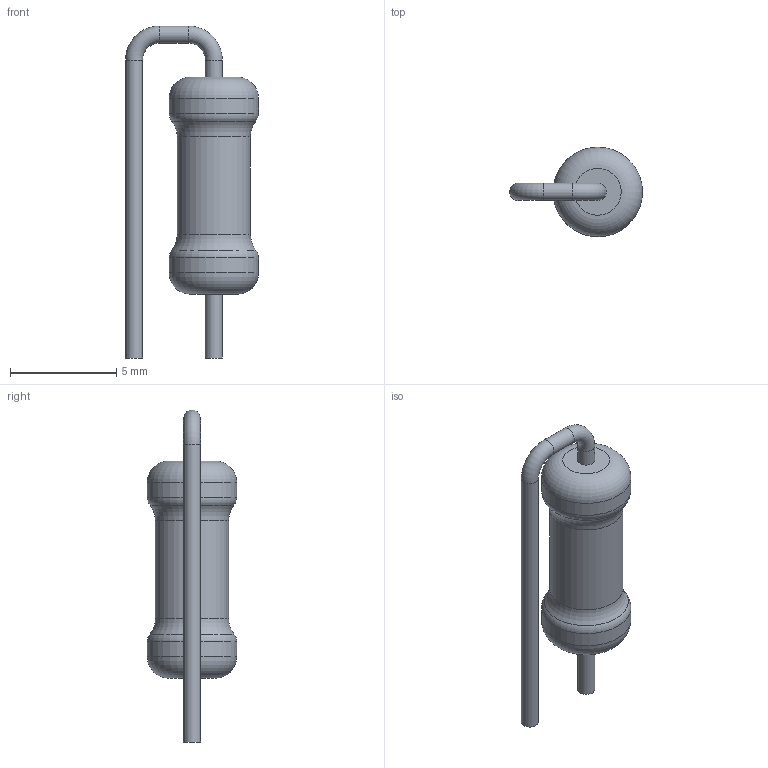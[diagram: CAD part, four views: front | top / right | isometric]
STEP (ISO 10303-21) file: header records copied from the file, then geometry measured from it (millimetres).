
FILE_DESCRIPTION(('STEP AP203'), '1');
FILE_NAME('栖闉罻', '', ('UNSPECIFIED'), ('UNSPECIFIED'), 'ASCON STEP Converter 1.6', 'ASCON Math Kernel', '');
FILE_SCHEMA(('CONFIG_CONTROL_DESIGN'));
Length unit declared in the file: millimetre
Assembly tree (1 placements, depth 2):
  (unnamed)
    (unnamed)
Bounding box: 6.25 x 4.2 x 15.6 mm (x, y, z)
Volume: 121.1 mm3; surface area: 195.8 mm2
Topology: 1 solids, 1 shells, 19 faces, 33 edges, 18 vertices
Faces by surface type: torus 8, cylinder 7, plane 4
Full cylindrical faces by diameter (mm): 0.8 x4, 3.439 x1, 4.2 x2
Entity records: 620 total; most frequent: DIRECTION 78, CARTESIAN_POINT 57, AXIS2_PLACEMENT_3D 39, EDGE_LOOP 36, ORIENTED_EDGE 36, FACE_OUTER_BOUND 30, COLOUR_RGB 20, FILL_AREA_STYLE_COLOUR 20
